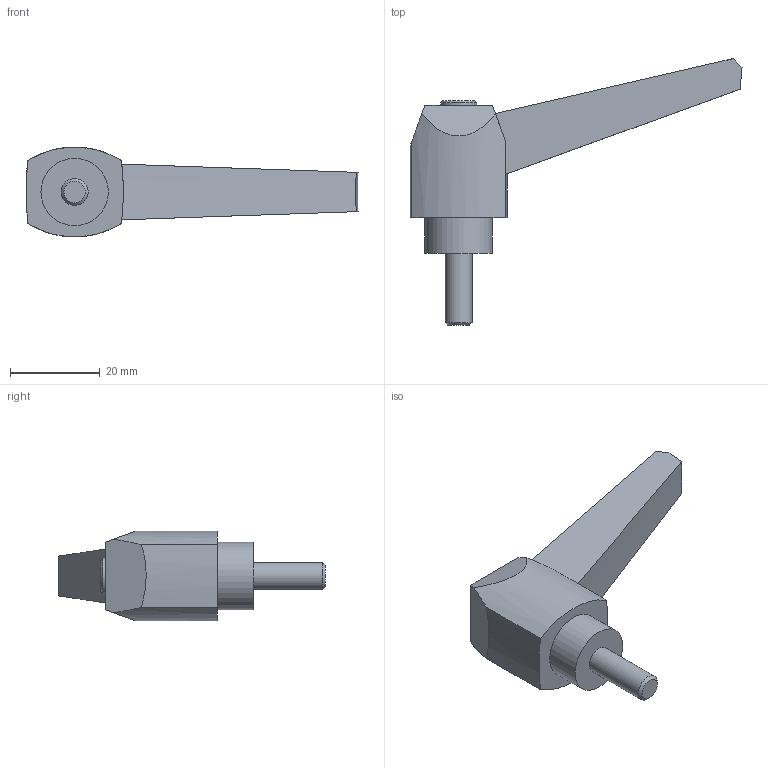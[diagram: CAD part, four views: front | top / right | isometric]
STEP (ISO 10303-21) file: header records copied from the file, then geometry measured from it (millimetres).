
FILE_DESCRIPTION( ( 'STEP AP203' ), '1' );
FILE_NAME( 'C:/Temp/Ganter_Step_05_03_2020/data/2_1/gn_500/gn_500_ms/Adjustable hand lever GN 500-63-M6-16-SW.stp', '2020-03-05T11:26:32', ( 'License CC BY-ND 4.0' ), ( 'CADENAS' ), ' ', 'PARTsolutions', ' ' );
FILE_SCHEMA( ( 'CONFIG_CONTROL_DESIGN' ) );
Length unit declared in the file: millimetre
Products named in the file (1): _Adjustable hand lever GN 500-63-M6-16-SW
Bounding box: 73.9 x 59.35 x 20 mm (x, y, z)
Volume: 16943.4 mm3; surface area: 5269.9 mm2
Topology: 1 solids, 1 shells, 24 faces, 56 edges, 37 vertices
Faces by surface type: plane 11, cylinder 7, cone 6
Full cylindrical faces by diameter (mm): 6 x1, 8 x1, 15 x1
Entity records: 708 total; most frequent: DIRECTION 122, CARTESIAN_POINT 117, ORIENTED_EDGE 100, EDGE_CURVE 50, AXIS2_PLACEMENT_3D 49, VERTEX_POINT 36, EDGE_LOOP 32, FACE_OUTER_BOUND 27
